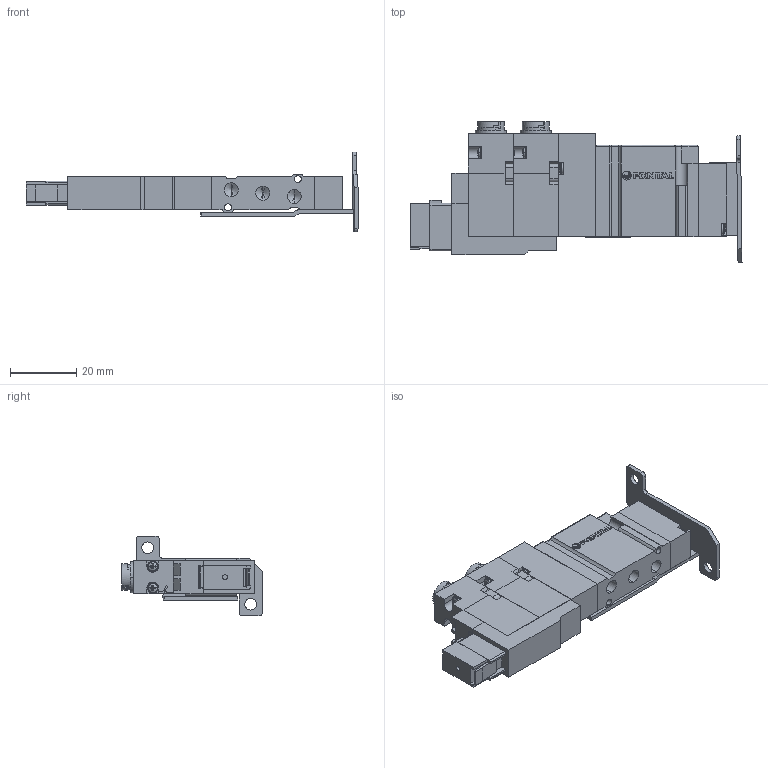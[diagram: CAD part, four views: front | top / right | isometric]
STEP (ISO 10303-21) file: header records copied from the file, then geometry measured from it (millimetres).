
FILE_DESCRIPTION (( 'STEP AP203' ), '1' );
FILE_NAME ('A05FD25#-BF-#-#-E.STEP', '2016-02-15T06:12:45', ( 'Sam Lin' ), ( '' ), 'SwSTEP 2.0', 'SolidWorks 2013', '' );
FILE_SCHEMA (( 'CONFIG_CONTROL_DESIGN' ));
Length unit declared in the file: metre
Products named in the file (15): A05RS25-5; A05RS25-6; DC24-A05F-1; A05FS25-2; DC24-A05G-3; A05RS25-1; A05RS25-11-3; DC24-A05F-2; ISO 7045 - M1.6 x 10; A05FS25-5; A05FS25-6; mark-ADEX-A05RS; A05FD25#-BF-#-#-E; A05RS25-3; A05RS25-4
Assembly tree (27 placements, depth 2):
  A05FD25#-BF-#-#-E
    A05RS25-1
    ISO 7045 - M1.6 x 10  x8
    mark-ADEX-A05RS
    A05RS25-3  x2
    A05RS25-4  x2
    A05RS25-5  x2
    A05RS25-6  x4
    DC24-A05F-1
    DC24-A05G-3
    DC24-A05F-2
    A05FS25-6
    A05FS25-2
    A05RS25-11-3
    A05FS25-5
Bounding box: 99.94 x 42.34 x 24 mm (x, y, z)
Volume: 26068.7 mm3; surface area: 18810.7 mm2
Topology: 35 solids, 35 shells, 933 faces, 2391 edges, 1520 vertices
Faces by surface type: plane 590, cylinder 191, cone 86, bspline 66
Entity records: 17840 total; most frequent: CARTESIAN_POINT 3497, ORIENTED_EDGE 2584, DIRECTION 2530, EDGE_CURVE 1292, VECTOR 938, LINE 938, VERTEX_POINT 847, AXIS2_PLACEMENT_3D 796
